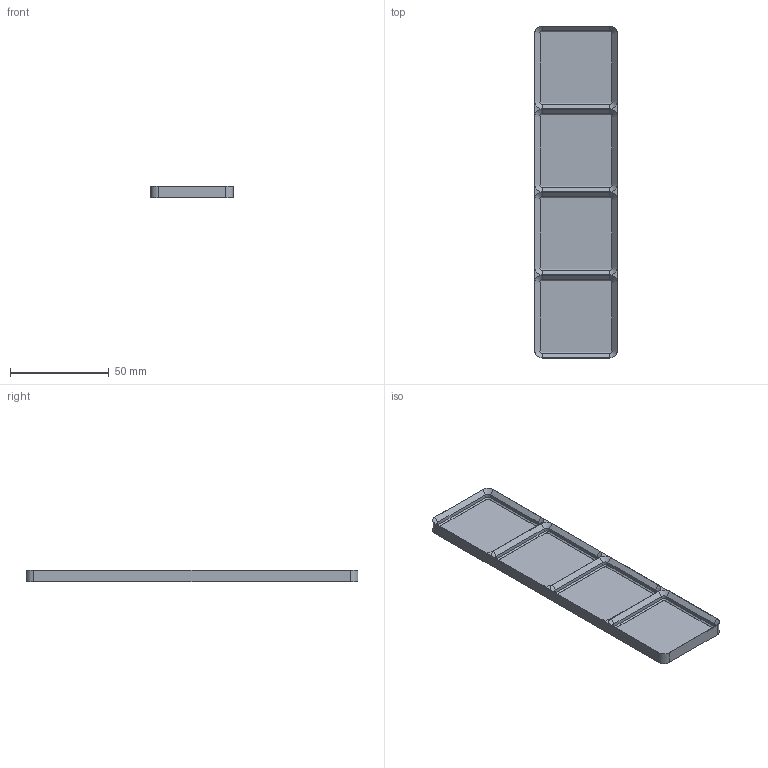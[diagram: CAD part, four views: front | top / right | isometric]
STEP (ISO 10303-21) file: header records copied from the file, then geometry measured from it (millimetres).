
FILE_DESCRIPTION(('Open CASCADE Model'),'2;1');
FILE_NAME('Open CASCADE Shape Model','2026-11-03T10:59:28',('Author'),( 'Open CASCADE'),'Open CASCADE STEP processor 8.0','build123d', 'Unknown');
FILE_SCHEMA(('AUTOMOTIVE_DESIGN { 1 0 10303 214 1 1 1 1 }'));
Length unit declared in the file: millimetre
Products named in the file (1): COMPOUND
Bounding box: 42 x 168 x 6 mm (x, y, z)
Volume: 14695 mm3; surface area: 18360.1 mm2
Topology: 1 solids, 1 shells, 142 faces, 312 edges, 176 vertices
Faces by surface type: plane 74, cylinder 36, cone 32
Entity records: 7642 total; most frequent: CARTESIAN_POINT 1671, DIRECTION 1014, ORIENTED_EDGE 624, PCURVE 624, DEFINITIONAL_REPRESENTATION 624, LINE 536, VECTOR 536, EDGE_CURVE 312
